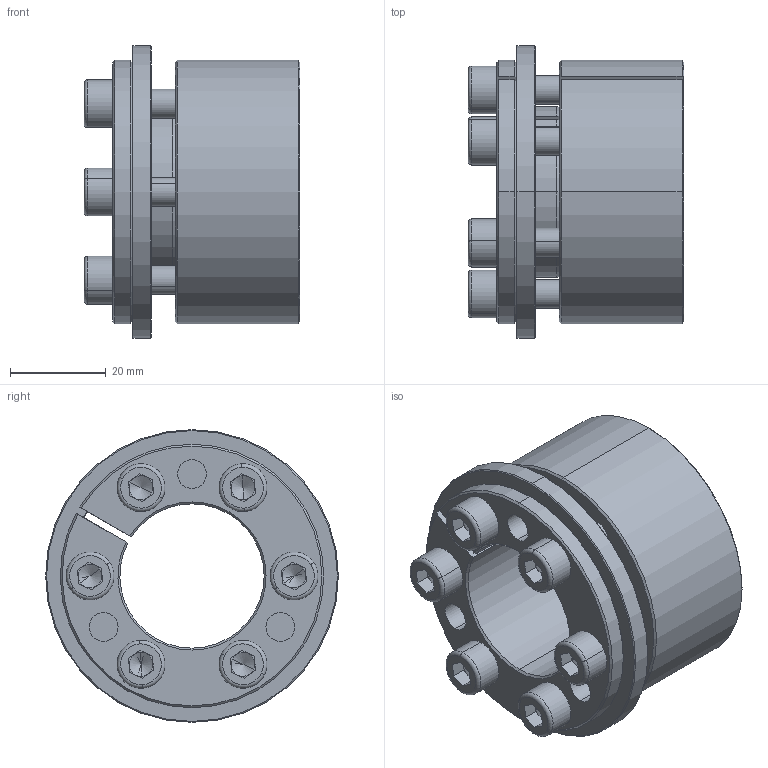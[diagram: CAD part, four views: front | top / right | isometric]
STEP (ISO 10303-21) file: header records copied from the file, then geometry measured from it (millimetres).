
FILE_DESCRIPTION (( 'STEP AP214' ), '1' );
FILE_NAME ('H5×°ÅäÌå30-55.STEP', '2022-07-26T02:01:34', ( '' ), ( '' ), 'SwSTEP 2.0', 'SolidWorks 2022', '' );
FILE_SCHEMA (( 'AUTOMOTIVE_DESIGN' ));
Length unit declared in the file: millimetre
Products named in the file (1): H5蚾饜极30-55
Bounding box: 45 x 61 x 61 mm (x, y, z)
Volume: 58692.2 mm3; surface area: 24800.7 mm2
Topology: 1 solids, 1 shells, 253 faces, 619 edges, 380 vertices
Faces by surface type: plane 100, cylinder 73, cone 68, torus 12
Entity records: 7478 total; most frequent: DIRECTION 1382, CARTESIAN_POINT 1313, ORIENTED_EDGE 1214, EDGE_CURVE 607, AXIS2_PLACEMENT_3D 545, VERTEX_POINT 380, EDGE_LOOP 297, LINE 292
